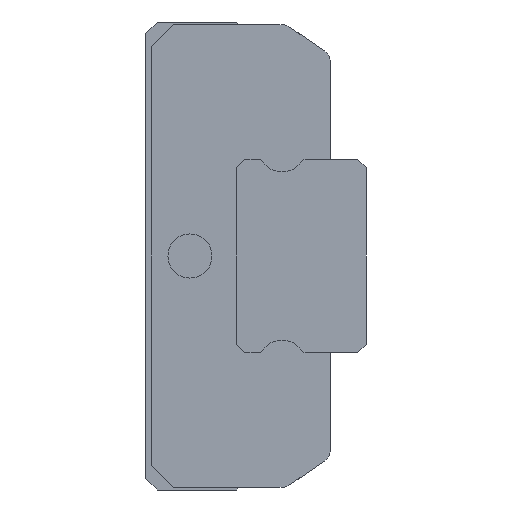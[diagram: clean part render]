
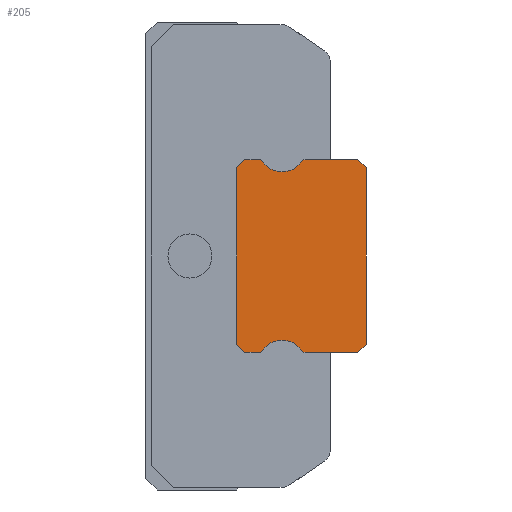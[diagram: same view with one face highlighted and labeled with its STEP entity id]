
A CAD part, left-side view. The second image highlights one B-rep face of the part: STEP entity #205.
In plain terms, the highlighted planar face has unit normal (-1, 0, 0).
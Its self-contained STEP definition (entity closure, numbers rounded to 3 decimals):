
#205 = ADVANCED_FACE( '', ( #502 ), #503, .F. );
#502 = FACE_OUTER_BOUND( '', #897, .T. );
#503 = PLANE( '', #898 );
#897 = EDGE_LOOP( '', ( #1727, #1728, #1729, #1730, #1731, #1732, #1733, #1734, #1735, #1736, #1737, #1738, #1739, #1740, #1741, #1742 ) );
#898 = AXIS2_PLACEMENT_3D( '', #1743, #1744, #1745 );
#1727 = ORIENTED_EDGE( '', *, *, #2705, .F. );
#1728 = ORIENTED_EDGE( '', *, *, #2660, .F. );
#1729 = ORIENTED_EDGE( '', *, *, #2664, .F. );
#1730 = ORIENTED_EDGE( '', *, *, #2667, .F. );
#1731 = ORIENTED_EDGE( '', *, *, #2670, .F. );
#1732 = ORIENTED_EDGE( '', *, *, #2673, .F. );
#1733 = ORIENTED_EDGE( '', *, *, #2676, .F. );
#1734 = ORIENTED_EDGE( '', *, *, #2679, .F. );
#1735 = ORIENTED_EDGE( '', *, *, #2682, .F. );
#1736 = ORIENTED_EDGE( '', *, *, #2685, .F. );
#1737 = ORIENTED_EDGE( '', *, *, #2688, .F. );
#1738 = ORIENTED_EDGE( '', *, *, #2691, .F. );
#1739 = ORIENTED_EDGE( '', *, *, #2694, .F. );
#1740 = ORIENTED_EDGE( '', *, *, #2697, .F. );
#1741 = ORIENTED_EDGE( '', *, *, #2700, .F. );
#1742 = ORIENTED_EDGE( '', *, *, #2703, .F. );
#1743 = CARTESIAN_POINT( '', ( -10., 0., 0. ) );
#1744 = DIRECTION( '', ( 1., 0., 0. ) );
#1745 = DIRECTION( '', ( 0., 0., -1. ) );
#2660 = EDGE_CURVE( '', #3209, #3211, #3212, .T. );
#2664 = EDGE_CURVE( '', #3216, #3209, #3218, .T. );
#2667 = EDGE_CURVE( '', #3221, #3216, #3223, .T. );
#2670 = EDGE_CURVE( '', #3226, #3221, #3228, .T. );
#2673 = EDGE_CURVE( '', #3231, #3226, #3233, .T. );
#2676 = EDGE_CURVE( '', #3236, #3231, #3238, .T. );
#2679 = EDGE_CURVE( '', #3241, #3236, #3243, .T. );
#2682 = EDGE_CURVE( '', #3246, #3241, #3248, .T. );
#2685 = EDGE_CURVE( '', #3251, #3246, #3253, .T. );
#2688 = EDGE_CURVE( '', #3256, #3251, #3258, .T. );
#2691 = EDGE_CURVE( '', #3261, #3256, #3263, .T. );
#2694 = EDGE_CURVE( '', #3266, #3261, #3268, .T. );
#2697 = EDGE_CURVE( '', #3271, #3266, #3273, .T. );
#2700 = EDGE_CURVE( '', #3276, #3271, #3278, .T. );
#2703 = EDGE_CURVE( '', #3281, #3276, #3283, .T. );
#2705 = EDGE_CURVE( '', #3211, #3281, #3285, .T. );
#3209 = VERTEX_POINT( '', #3998 );
#3211 = VERTEX_POINT( '', #4001 );
#3212 = LINE( '', #4002, #4003 );
#3216 = VERTEX_POINT( '', #4008 );
#3218 = CIRCLE( '', #4011, 0.15 );
#3221 = VERTEX_POINT( '', #4014 );
#3223 = CIRCLE( '', #4017, 0.866 );
#3226 = VERTEX_POINT( '', #4020 );
#3228 = CIRCLE( '', #4023, 0.15 );
#3231 = VERTEX_POINT( '', #4027 );
#3233 = LINE( '', #4030, #4031 );
#3236 = VERTEX_POINT( '', #4035 );
#3238 = LINE( '', #4038, #4039 );
#3241 = VERTEX_POINT( '', #4043 );
#3243 = LINE( '', #4046, #4047 );
#3246 = VERTEX_POINT( '', #4051 );
#3248 = LINE( '', #4054, #4055 );
#3251 = VERTEX_POINT( '', #4059 );
#3253 = LINE( '', #4062, #4063 );
#3256 = VERTEX_POINT( '', #4066 );
#3258 = CIRCLE( '', #4069, 0.15 );
#3261 = VERTEX_POINT( '', #4072 );
#3263 = CIRCLE( '', #4075, 0.866 );
#3266 = VERTEX_POINT( '', #4078 );
#3268 = CIRCLE( '', #4081, 0.15 );
#3271 = VERTEX_POINT( '', #4085 );
#3273 = LINE( '', #4088, #4089 );
#3276 = VERTEX_POINT( '', #4093 );
#3278 = LINE( '', #4096, #4097 );
#3281 = VERTEX_POINT( '', #4101 );
#3283 = LINE( '', #4104, #4105 );
#3285 = LINE( '', #4108, #4109 );
#3998 = CARTESIAN_POINT( '', ( -10., 2.214, 3.5 ) );
#4001 = CARTESIAN_POINT( '', ( -10., 0.3, 3.5 ) );
#4002 = CARTESIAN_POINT( '', ( -10., 2.214, 3.5 ) );
#4003 = VECTOR( '', #5052, 1. );
#4008 = CARTESIAN_POINT( '', ( -10., 2.338, 3.435 ) );
#4011 = AXIS2_PLACEMENT_3D( '', #5058, #5059, #5060 );
#4014 = CARTESIAN_POINT( '', ( -10., 3.767, 3.435 ) );
#4017 = AXIS2_PLACEMENT_3D( '', #5065, #5066, #5067 );
#4020 = CARTESIAN_POINT( '', ( -10., 3.89, 3.5 ) );
#4023 = AXIS2_PLACEMENT_3D( '', #5072, #5073, #5074 );
#4027 = CARTESIAN_POINT( '', ( -10., 4.4, 3.5 ) );
#4030 = CARTESIAN_POINT( '', ( -10., 4.4, 3.5 ) );
#4031 = VECTOR( '', #5077, 1. );
#4035 = CARTESIAN_POINT( '', ( -10., 4.7, 3.2 ) );
#4038 = CARTESIAN_POINT( '', ( -10., 4.7, 3.2 ) );
#4039 = VECTOR( '', #5080, 1. );
#4043 = CARTESIAN_POINT( '', ( -10., 4.7, -3.2 ) );
#4046 = CARTESIAN_POINT( '', ( -10., 4.7, -3.2 ) );
#4047 = VECTOR( '', #5083, 1. );
#4051 = CARTESIAN_POINT( '', ( -10., 4.4, -3.5 ) );
#4054 = CARTESIAN_POINT( '', ( -10., 4.4, -3.5 ) );
#4055 = VECTOR( '', #5086, 1. );
#4059 = CARTESIAN_POINT( '', ( -10., 3.89, -3.5 ) );
#4062 = CARTESIAN_POINT( '', ( -10., 3.89, -3.5 ) );
#4063 = VECTOR( '', #5089, 1. );
#4066 = CARTESIAN_POINT( '', ( -10., 3.767, -3.435 ) );
#4069 = AXIS2_PLACEMENT_3D( '', #5094, #5095, #5096 );
#4072 = CARTESIAN_POINT( '', ( -10., 2.338, -3.435 ) );
#4075 = AXIS2_PLACEMENT_3D( '', #5101, #5102, #5103 );
#4078 = CARTESIAN_POINT( '', ( -10., 2.214, -3.5 ) );
#4081 = AXIS2_PLACEMENT_3D( '', #5108, #5109, #5110 );
#4085 = CARTESIAN_POINT( '', ( -10., 0.3, -3.5 ) );
#4088 = CARTESIAN_POINT( '', ( -10., 0.3, -3.5 ) );
#4089 = VECTOR( '', #5113, 1. );
#4093 = CARTESIAN_POINT( '', ( -10., 0., -3.2 ) );
#4096 = CARTESIAN_POINT( '', ( -10., 0., -3.2 ) );
#4097 = VECTOR( '', #5116, 1. );
#4101 = CARTESIAN_POINT( '', ( -10., 0., 3.2 ) );
#4104 = CARTESIAN_POINT( '', ( -10., 0., 3.2 ) );
#4105 = VECTOR( '', #5119, 1. );
#4108 = CARTESIAN_POINT( '', ( -10., 0.3, 3.5 ) );
#4109 = VECTOR( '', #5121, 1. );
#5052 = DIRECTION( '', ( 0., -1., 0. ) );
#5058 = CARTESIAN_POINT( '', ( -10., 2.214, 3.35 ) );
#5059 = DIRECTION( '', ( 1., 0., 0. ) );
#5060 = DIRECTION( '', ( 0., 0.825, 0.565 ) );
#5065 = CARTESIAN_POINT( '', ( -10., 3.052, 3.924 ) );
#5066 = DIRECTION( '', ( -1., 0., 0. ) );
#5067 = DIRECTION( '', ( 0., 0.825, -0.565 ) );
#5072 = CARTESIAN_POINT( '', ( -10., 3.89, 3.35 ) );
#5073 = DIRECTION( '', ( 1., 0., 0. ) );
#5074 = DIRECTION( '', ( 0., 0., 1. ) );
#5077 = DIRECTION( '', ( 0., -1., 0. ) );
#5080 = DIRECTION( '', ( 0., -0.707, 0.707 ) );
#5083 = DIRECTION( '', ( 0., 0., 1. ) );
#5086 = DIRECTION( '', ( 0., 0.707, 0.707 ) );
#5089 = DIRECTION( '', ( 0., 1., 0. ) );
#5094 = CARTESIAN_POINT( '', ( -10., 3.89, -3.35 ) );
#5095 = DIRECTION( '', ( 1., 0., 0. ) );
#5096 = DIRECTION( '', ( 0., -0.825, -0.565 ) );
#5101 = CARTESIAN_POINT( '', ( -10., 3.052, -3.924 ) );
#5102 = DIRECTION( '', ( -1., 0., 0. ) );
#5103 = DIRECTION( '', ( 0., -0.825, 0.565 ) );
#5108 = CARTESIAN_POINT( '', ( -10., 2.214, -3.35 ) );
#5109 = DIRECTION( '', ( 1., 0., 0. ) );
#5110 = DIRECTION( '', ( 0., 0., -1. ) );
#5113 = DIRECTION( '', ( 0., 1., 0. ) );
#5116 = DIRECTION( '', ( 0., 0.707, -0.707 ) );
#5119 = DIRECTION( '', ( 0., 0., -1. ) );
#5121 = DIRECTION( '', ( 0., -0.707, -0.707 ) );
